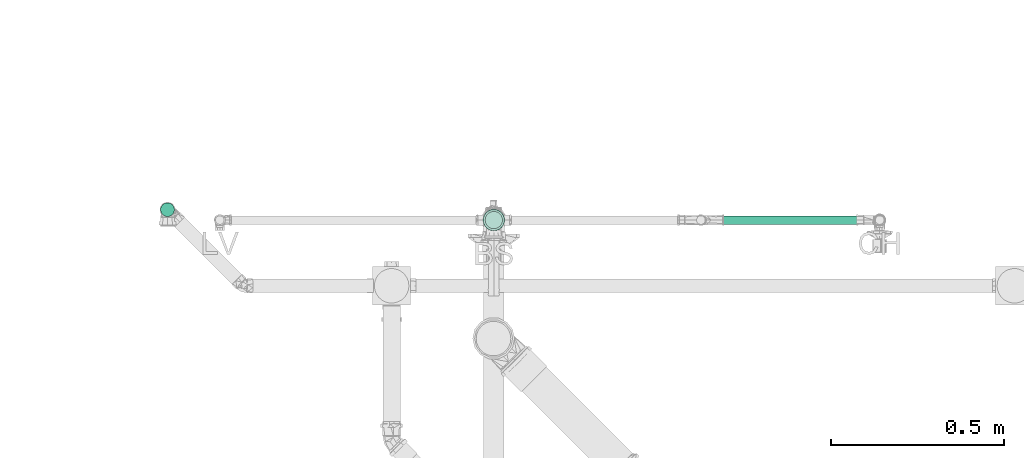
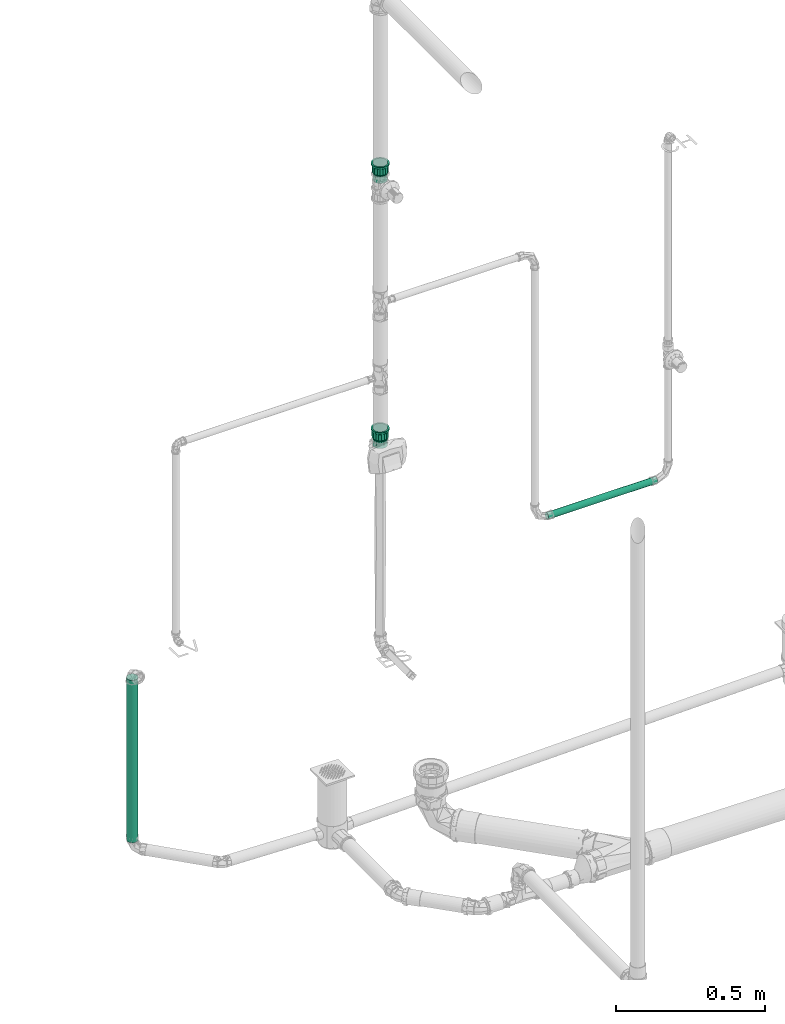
# One storey, part 289 of 589: 2 flow fittings, 2 flow segments.
"""IFC2X3 building model written with IfcOpenShell, lengths in millimetres."""

from ifc_helpers import new_model, entity, si_unit, converted_unit, derived_unit, direction, frame, frame_2d, origin, origin_2d_with_axis, place, context, subcontext, project, spatial, circle, extrude, faceted_brep, source, transform, mapped, material, type_object, type_shapes, element, save


model = new_model("IFC2X3")

# Units and contexts
model_context = context("Model", 3, precision=0.01, world=origin(), true_north=direction((6.123031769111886e-17, 1.0)))
body_context = subcontext(model_context, "Body", "Model", "MODEL_VIEW")
ifc_project = project(units=[si_unit("LENGTHUNIT", "METRE", prefix="MILLI"), si_unit("AREAUNIT", "SQUARE_METRE"), si_unit("VOLUMEUNIT", "CUBIC_METRE"), converted_unit("PLANEANGLEUNIT", "DEGREE", entity("IfcRatioMeasure", 0.017453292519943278), si_unit("PLANEANGLEUNIT", "RADIAN"), dimensions=[0, 0, 0, 0, 0, 0, 0]), si_unit("MASSUNIT", "GRAM", prefix="KILO"), derived_unit("MASSDENSITYUNIT", [(si_unit("MASSUNIT", "GRAM", prefix="KILO"), 1), (si_unit("LENGTHUNIT", "METRE"), -3)]), derived_unit("IONCONCENTRATIONUNIT", [(si_unit("MASSUNIT", "GRAM", prefix="KILO"), 1), (si_unit("LENGTHUNIT", "METRE"), -3)]), derived_unit("MOMENTOFINERTIAUNIT", [(si_unit("LENGTHUNIT", "METRE"), 4)]), si_unit("TIMEUNIT", "SECOND"), si_unit("FREQUENCYUNIT", "HERTZ"), si_unit("THERMODYNAMICTEMPERATUREUNIT", "DEGREE_CELSIUS"), derived_unit("THERMALTRANSMITTANCEUNIT", [(si_unit("MASSUNIT", "GRAM", prefix="KILO"), 1), (si_unit("THERMODYNAMICTEMPERATUREUNIT", "KELVIN"), -1), (si_unit("TIMEUNIT", "SECOND"), -3)]), derived_unit("THERMALCONDUCTANCEUNIT", [(si_unit("MASSUNIT", "GRAM", prefix="KILO"), 1), (si_unit("THERMODYNAMICTEMPERATUREUNIT", "KELVIN"), -1), (si_unit("TIMEUNIT", "SECOND"), -3), (si_unit("LENGTHUNIT", "METRE"), 1)]), derived_unit("VOLUMETRICFLOWRATEUNIT", [(si_unit("LENGTHUNIT", "METRE"), 3), (si_unit("TIMEUNIT", "SECOND"), -1)]), derived_unit("MASSFLOWRATEUNIT", [(si_unit("MASSUNIT", "GRAM", prefix="KILO"), 1), (si_unit("TIMEUNIT", "SECOND"), -1)]), derived_unit("ROTATIONALFREQUENCYUNIT", [(si_unit("TIMEUNIT", "SECOND"), -1)]), si_unit("ELECTRICCURRENTUNIT", "AMPERE"), si_unit("ELECTRICVOLTAGEUNIT", "VOLT"), si_unit("POWERUNIT", "WATT"), si_unit("FORCEUNIT", "NEWTON", prefix="KILO"), si_unit("ILLUMINANCEUNIT", "LUX"), si_unit("LUMINOUSFLUXUNIT", "LUMEN"), si_unit("LUMINOUSINTENSITYUNIT", "CANDELA"), derived_unit("USERDEFINED", [(si_unit("MASSUNIT", "GRAM", prefix="KILO"), -1), (si_unit("LENGTHUNIT", "METRE"), -2), (si_unit("TIMEUNIT", "SECOND"), 3), (si_unit("LUMINOUSFLUXUNIT", "LUMEN"), 1)]), derived_unit("USERDEFINED", [(si_unit("MASSUNIT", "GRAM", prefix="KILO"), 1), (si_unit("TIMEUNIT", "SECOND"), -3), (si_unit("LENGTHUNIT", "METRE"), 3), (si_unit("ELECTRICCURRENTUNIT", "AMPERE"), -2)]), derived_unit("SOUNDPOWERUNIT", [(si_unit("MASSUNIT", "GRAM", prefix="KILO"), 1), (si_unit("TIMEUNIT", "SECOND"), -3), (si_unit("LENGTHUNIT", "METRE"), 2)]), derived_unit("SOUNDPRESSUREUNIT", [(si_unit("MASSUNIT", "GRAM", prefix="KILO"), 1), (si_unit("LENGTHUNIT", "METRE"), -1), (si_unit("TIMEUNIT", "SECOND"), -2)]), derived_unit("LINEARVELOCITYUNIT", [(si_unit("LENGTHUNIT", "METRE"), 1), (si_unit("TIMEUNIT", "SECOND"), -1)]), si_unit("PRESSUREUNIT", "PASCAL"), derived_unit("USERDEFINED", [(si_unit("MASSUNIT", "GRAM", prefix="KILO"), 1), (si_unit("LENGTHUNIT", "METRE"), -2), (si_unit("TIMEUNIT", "SECOND"), -2)]), derived_unit("LINEARFORCEUNIT", [(si_unit("MASSUNIT", "GRAM", prefix="KILO"), 1), (si_unit("TIMEUNIT", "SECOND"), -2)]), derived_unit("PLANARFORCEUNIT", [(si_unit("MASSUNIT", "GRAM", prefix="KILO"), 1), (si_unit("LENGTHUNIT", "METRE"), -1), (si_unit("TIMEUNIT", "SECOND"), -2)]), derived_unit("SPECIFICHEATCAPACITYUNIT", [(si_unit("THERMODYNAMICTEMPERATUREUNIT", "KELVIN"), -1), (si_unit("LENGTHUNIT", "METRE"), 2), (si_unit("TIMEUNIT", "SECOND"), -2)]), derived_unit("HEATINGVALUEUNIT", [(si_unit("LENGTHUNIT", "METRE"), 2), (si_unit("TIMEUNIT", "SECOND"), -2)]), derived_unit("VAPORPERMEABILITYUNIT", [(si_unit("LENGTHUNIT", "METRE"), -1), (si_unit("TIMEUNIT", "SECOND"), 1)]), derived_unit("DYNAMICVISCOSITYUNIT", [(si_unit("MASSUNIT", "GRAM", prefix="KILO"), 1), (si_unit("TIMEUNIT", "SECOND"), -1), (si_unit("LENGTHUNIT", "METRE"), -1)]), derived_unit("THERMALEXPANSIONCOEFFICIENTUNIT", [(si_unit("THERMODYNAMICTEMPERATUREUNIT", "KELVIN"), -1)]), derived_unit("MODULUSOFELASTICITYUNIT", [(si_unit("MASSUNIT", "GRAM", prefix="KILO"), 1), (si_unit("LENGTHUNIT", "METRE"), -1), (si_unit("TIMEUNIT", "SECOND"), -2)]), derived_unit("ISOTHERMALMOISTURECAPACITYUNIT", [(si_unit("LENGTHUNIT", "METRE"), 3), (si_unit("MASSUNIT", "GRAM", prefix="KILO"), -1)]), derived_unit("MOISTUREDIFFUSIVITYUNIT", [(si_unit("TIMEUNIT", "SECOND"), -1), (si_unit("LENGTHUNIT", "METRE"), 2)])], contexts=[model_context])

# Site, building, storey
site_placement = place(None, origin())
site = spatial("IfcSite", under=ifc_project, at=site_placement, Name="Default", CompositionType="ELEMENT")
building_placement = place(site_placement, origin())
building = spatial("IfcBuilding", under=site, at=building_placement, CompositionType="ELEMENT")
storey_placement = place(building_placement, frame((0.0, 0.0, 100.0)))
storey = spatial("IfcBuildingStorey", under=building, at=storey_placement, Name="TÉRREO", CompositionType="ELEMENT", Elevation=100.0)

# Flow segments
pipe_segment_type_1 = type_object("IfcPipeSegmentType", Name="Tipos de tubos:PVC Esgoto Série Normal", PredefinedType="NOTDEFINED")
flow_segment_1_placement = place(storey_placement, origin())
element("IfcFlowSegment", 1, at=flow_segment_1_placement, inside=storey, type_object=pipe_segment_type_1, Name="Tipos de tubos:PVC Esgoto Série Normal", ObjectType="Tipos de tubos:PVC Esgoto Série Normal", context=body_context, shape_type="SweptSolid", body=[
    extrude(circle(Radius=20.0, at=origin_2d_with_axis()), frame((5110.992236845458, 7565.999967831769, -187.41572645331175)), (0.0, 0.0, 1.0), 665.6157264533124),
])
pipe_segment_type_2 = type_object("IfcPipeSegmentType", Name="Tipos de tubos:PVC Marrom Soldável", PredefinedType="NOTDEFINED")
flow_segment_2_placement = place(storey_placement, origin())
element("IfcFlowSegment", 2, at=flow_segment_2_placement, inside=storey, type_object=pipe_segment_type_2, Name="Tipos de tubos:PVC Marrom Soldável", ObjectType="Tipos de tubos:PVC Marrom Soldável", context=body_context, shape_type="SweptSolid", body=[
    extrude(circle(Radius=12.5, at=frame_2d((2.7071678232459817e-11, 0.0), x_axis=(1.0, 0.0))), frame((6700.634721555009, 7535.9247526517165, 600.0), z_axis=(1.0, 0.0, 0.0), x_axis=(0.0, 1.0, 0.0)), (0.0, 0.0, 1.0), 423.11198955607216),
])

# Flow fittings
ifc_material = material(Name="PVC Marrom")
pipe_fitting_type = type_object("IfcPipeFittingType", Name="PVC Marrom Soldável_Adaptador Curto com Bolsa e Rosca Aninhado_Rodrigo MEP:Adaptador", PredefinedType="NOTDEFINED", material=ifc_material)
shared_shape = source(origin(), body_context, "Body", "Brep", [
    faceted_brep([(0.0, 12.499999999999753, -21.65063509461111), (0.0, 21.884954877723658, -21.88495487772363), (0.0, 15.475000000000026, -26.803486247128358), (0.0, 17.677669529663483, -17.6776695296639), (0.0, 6.470476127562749, -24.14814565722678), (0.0, 26.803486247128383, -15.474999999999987), (0.0, 21.650635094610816, -12.500000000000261), (0.0, 24.148145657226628, -6.470476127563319), (0.0, 29.895404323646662, -8.01044944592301), (0.0, 25.0, 0.0), (0.0, 30.95, 0.0), (0.0, 24.14814565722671, 6.470476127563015), (0.0, 29.895404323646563, 8.010449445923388), (0.0, 21.65063509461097, 12.499999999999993), (0.0, 26.80348624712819, 15.475000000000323), (0.0, 17.6776695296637, 17.677669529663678), (0.0, 21.884954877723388, 21.884954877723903), (0.0, 12.500000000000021, 21.65063509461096), (0.0, 15.474999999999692, 26.803486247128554), (0.0, 6.4704761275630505, 24.1481456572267), (0.0, 8.010449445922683, 29.89540432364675), (0.0, 0.0, 25.0), (0.0, 0.0, 30.95), (0.0, -6.4704761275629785, 24.14814565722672), (0.0, -8.010449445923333, 29.895404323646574), (0.0, -12.49999999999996, 21.650635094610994), (0.0, -15.475000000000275, 26.803486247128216), (0.0, -17.677669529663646, 17.67766952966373), (0.0, -21.884954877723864, 21.884954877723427), (0.0, -21.65063509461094, 12.500000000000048), (0.0, -26.803486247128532, 15.474999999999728), (0.0, -29.89540432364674, 8.010449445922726), (0.0, -24.14814565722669, 6.4704761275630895), (0.0, -30.95, 0.0), (0.0, -25.0, 0.0), (0.0, -29.895404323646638, -8.010449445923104), (0.0, -24.148145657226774, -6.470476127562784), (0.0, -26.803486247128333, -15.475000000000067), (0.0, -21.6506350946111, -12.499999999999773), (0.0, -21.884954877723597, -21.884954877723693), (0.0, -17.677669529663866, -17.67766952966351), (0.0, -15.474999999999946, -26.803486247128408), (0.0, -12.500000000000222, -21.650635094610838), (0.0, -8.010449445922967, -29.895404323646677), (0.0, -6.470476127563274, -24.148145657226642), (0.0, 0.0, -30.95), (0.0, 0.0, -25.0), (0.0, 8.010449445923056, -29.895404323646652), (7.0, -30.016595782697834, 5.29316701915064), (7.0, -29.88065133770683, 6.064083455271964), (7.0, -29.083191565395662, 10.586334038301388), (7.0, -23.70796650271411, 19.895598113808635), (7.0, -19.590362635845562, 23.350189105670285), (7.0, -26.395579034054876, 15.24096607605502), (7.0, -5.3710129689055, 30.480398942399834), (7.0, -10.421885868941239, 28.6425895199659), (7.0, -30.95, 0.0), (7.0, -15.472758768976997, 26.804780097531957), (7.0, 10.42907040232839, 28.639974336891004), (7.0, 15.479482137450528, 26.80089798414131), (7.0, 5.37865866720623, 30.479050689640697), (7.0, 19.596219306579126, 23.345274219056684), (7.0, 23.712956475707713, 19.889650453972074), (7.0, 29.08584618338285, 10.57903832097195), (7.0, 30.95, 0.0), (7.0, 26.39940132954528, 15.234344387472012), (7.0, 0.0038228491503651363, 30.47972481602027), (7.0, 29.08584618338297, -10.579038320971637), (7.0, 23.71295647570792, -19.88965045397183), (7.0, 19.596219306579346, -23.3452742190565), (7.0, 26.39940132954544, -15.234344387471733), (7.0, 5.378658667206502, -30.47905068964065), (7.0, 10.429070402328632, -28.639974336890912), (7.0, 15.47948213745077, -26.800897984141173), (7.0, -30.0165957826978, -5.2931670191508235), (7.0, -10.421885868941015, -28.642589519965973), (7.0, -15.472758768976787, -26.804780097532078), (7.0, -5.3710129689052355, -30.480398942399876), (7.0, -19.590362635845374, -23.350189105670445), (7.0, -23.707966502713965, -19.895598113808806), (7.0, -29.083191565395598, -10.58633403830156), (7.0, -29.88065131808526, -6.064083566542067), (7.0, -26.395579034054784, -15.240966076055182), (7.0, 0.003822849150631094, -30.479724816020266), (9.400000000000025, -26.87493630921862, 9.782525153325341), (9.400000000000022, -27.737468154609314, 4.891262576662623), (34.4499999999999, -26.875116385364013, 9.782030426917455), (9.40000000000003, -18.102887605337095, 21.577234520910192), (34.4499999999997, -14.299296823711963, 24.768732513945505), (9.400000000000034, -14.297928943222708, 24.769522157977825), (9.400000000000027, -24.391391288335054, 14.083736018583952), (34.44999999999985, -24.391819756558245, 14.083085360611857), (34.4499999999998, -21.908523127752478, 18.384140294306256), (34.44999999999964, -4.965271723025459, 28.165689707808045), (9.400000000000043, -4.963197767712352, 28.16605524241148), (9.400000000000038, -9.63056335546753, 26.467788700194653), (9.400000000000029, -21.907846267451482, 18.384946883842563), (9.40000000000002, -28.600000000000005, 0.0), (34.44999999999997, -27.796398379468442, 4.557325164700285), (34.44999999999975, -18.103909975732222, 21.57643640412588), (34.44999999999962, 4.967670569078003, 28.165266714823), (9.400000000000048, 0.003532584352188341, 28.165432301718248), (34.44999999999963, 0.0011994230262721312, 28.165478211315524), (34.44999999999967, -9.632284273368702, 26.46721111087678), (9.400000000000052, 4.970262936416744, 28.164809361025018), (9.400000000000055, 9.63720237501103, 26.465372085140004), (34.449999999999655, 14.301406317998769, 24.76751455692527), (9.40000000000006, 14.304141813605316, 24.765934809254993), (34.449999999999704, 18.105747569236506, 21.574894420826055), (34.44999999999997, -27.73755819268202, 4.891015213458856), (34.449999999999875, 26.875949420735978, 9.779741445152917), (34.450000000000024, 28.600000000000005, 0.0), (9.400000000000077, 26.87738936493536, 9.77578339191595), (34.449999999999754, 21.910088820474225, 18.38227428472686), (9.40000000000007, 21.91245735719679, 18.379450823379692), (9.400000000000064, 18.108299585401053, 21.57269281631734), (34.44999999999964, 9.634538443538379, 26.46639063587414), (9.400000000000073, 24.394923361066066, 14.077617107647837), (34.450000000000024, -28.600000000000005, 0.0), (9.40000000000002, 28.600000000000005, 0.0), (34.44999999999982, 24.3930191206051, 14.081007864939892), (9.40000000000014, 26.87738936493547, -9.77578339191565), (34.45000000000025, 26.87594942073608, -9.77974144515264), (9.400000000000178, -18.10288760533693, -21.577234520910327), (34.45000000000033, -14.299296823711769, -24.76873251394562), (34.45000000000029, -18.10390997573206, -21.57643640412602), (9.400000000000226, 18.108299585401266, -21.57269281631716), (9.400000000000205, 21.912457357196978, -18.37945082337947), (34.450000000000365, 21.910088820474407, -18.38227428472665), (9.400000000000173, 24.394923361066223, -14.077617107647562), (34.45000000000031, 24.393019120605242, -14.081007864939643), (9.40000000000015, -21.907846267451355, -18.384946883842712), (34.45000000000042, 0.0011994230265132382, -28.165478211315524), (9.400000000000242, -4.963197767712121, -28.166055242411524), (9.40000000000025, 0.0035325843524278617, -28.165432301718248), (9.40000000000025, 9.637202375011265, -26.46537208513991), (9.400000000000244, 14.304141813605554, -24.765934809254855), (34.45000000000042, 14.301406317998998, -24.76751455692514), (9.400000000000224, -9.63056335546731, -26.467788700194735), (34.45000000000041, -4.965271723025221, -28.165689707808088), (34.45000000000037, -9.632284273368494, -26.467211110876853), (34.45000000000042, 9.634538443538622, -26.46639063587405), (9.400000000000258, 4.970262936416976, -28.164809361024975), (9.400000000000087, -26.874936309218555, -9.782525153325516), (9.40000000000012, -24.391391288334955, -14.083736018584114), (34.45000000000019, -24.391819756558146, -14.083085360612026), (34.450000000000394, 18.1057475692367, -21.574894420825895), (34.450000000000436, 4.967670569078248, -28.16526671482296), (34.45000000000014, -26.875116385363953, -9.782030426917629), (34.45000000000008, -27.796398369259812, -4.557325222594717), (9.400000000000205, -14.297928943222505, -24.769522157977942), (9.400000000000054, -27.737468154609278, -4.891262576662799), (34.450000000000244, -21.908523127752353, -18.38414029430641), (34.45000000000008, -27.737558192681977, -4.891015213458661), (69.0, 6.4704761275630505, -24.1481456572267), (69.0, 12.500000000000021, -21.65063509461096), (69.0, 17.6776695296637, -17.677669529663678), (69.0, 21.650635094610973, -12.499999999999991), (69.0, 24.14814565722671, -6.470476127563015), (69.0, 25.0, 0.0), (69.0, 24.148145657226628, 6.470476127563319), (69.0, 21.650635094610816, 12.500000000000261), (69.0, 17.677669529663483, 17.6776695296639), (69.0, 12.499999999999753, 21.65063509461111), (69.0, 6.470476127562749, 24.14814565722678), (69.0, 0.0, 25.0), (69.0, -6.470476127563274, 24.148145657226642), (69.0, -12.500000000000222, 21.650635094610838), (69.0, -17.67766952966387, 17.677669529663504), (69.0, -21.650635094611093, 12.499999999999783), (69.0, -24.148145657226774, 6.470476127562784), (69.0, -25.0, 0.0), (69.0, -24.14814565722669, -6.4704761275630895), (69.0, -21.650635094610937, -12.500000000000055), (69.0, -17.677669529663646, -17.67766952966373), (69.0, -12.49999999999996, -21.650635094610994), (69.0, -6.4704761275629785, -24.14814565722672), (69.0, 0.0, -25.0), (40.499999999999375, -8.41832461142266, 23.136178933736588), (40.49999999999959, -19.1502152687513, 16.070757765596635), (40.49999999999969, -21.321146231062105, 12.310958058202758), (40.49999999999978, -23.492077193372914, 8.551158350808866), (40.49999999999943, -12.498189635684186, 21.651680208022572), (40.49999999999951, -15.824202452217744, 18.861218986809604), (40.49999999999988, -24.246038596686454, 4.2755791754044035), (40.49999999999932, -4.3384595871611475, 24.620677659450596), (40.499999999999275, 4.344635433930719, 24.61958860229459), (40.499999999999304, 0.003087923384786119, 24.620133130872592), (40.49999999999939, 15.828933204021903, 18.85724896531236), (40.49999999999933, 12.503620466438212, 21.648544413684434), (40.49999999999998, -25.0, 0.0), (40.49999999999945, 19.154245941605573, 16.065953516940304), (40.49999999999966, 23.494221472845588, 8.545265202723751), (40.499999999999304, 8.424127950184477, 23.13406650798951), (40.49999999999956, 21.324233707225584, 12.305609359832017), (40.49999999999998, 25.0, 0.0), (40.500000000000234, 19.15424594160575, -16.065953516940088), (40.500000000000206, -15.824202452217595, -18.861218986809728), (40.50000000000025, -12.498189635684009, -21.65168020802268), (40.500000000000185, 21.32423370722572, -12.305609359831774), (40.50000000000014, 23.494221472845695, -8.545265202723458), (40.5000000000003, 12.503620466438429, -21.64854441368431), (40.50000000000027, 15.82893320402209, -18.8572489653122), (40.50000000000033, 4.344635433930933, -24.619588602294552), (40.50000000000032, 8.42412795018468, -23.13406650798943), (40.5000000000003, -4.3384595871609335, -24.62067765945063), (40.50000000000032, 0.00308792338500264, -24.620133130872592), (40.50000000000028, -8.41832461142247, -23.136178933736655), (40.50000000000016, -19.150215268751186, -16.070757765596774), (40.50000000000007, -23.49207719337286, -8.551158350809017), (40.500000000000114, -21.321146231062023, -12.31095805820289), (40.50000000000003, -24.246038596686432, -4.275579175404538), (9.40000000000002, -25.0, 0.0), (34.450000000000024, -25.0, 0.0), (34.450000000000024, -24.14814565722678, -6.470476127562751), (9.40000000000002, -24.14814565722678, -6.470476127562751), (7.0, -24.14814565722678, -6.470476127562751), (7.0, -25.0, 0.0), (34.450000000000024, -21.650635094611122, -12.499999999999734), (9.40000000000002, -21.650635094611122, -12.499999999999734), (7.0, -21.650635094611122, -12.499999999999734), (9.40000000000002, -12.500000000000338, -21.65063509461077), (7.0, -12.500000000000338, -21.65063509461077), (7.0, -17.677669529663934, -17.677669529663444), (9.40000000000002, -17.677669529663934, -17.677669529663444), (34.450000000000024, -17.677669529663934, -17.677669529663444), (34.450000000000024, -12.500000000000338, -21.65063509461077), (9.40000000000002, -6.470476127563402, -24.148145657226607), (7.0, -6.470476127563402, -24.148145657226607), (34.450000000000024, -6.470476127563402, -24.148145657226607), (34.450000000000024, 0.0, -25.0), (9.40000000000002, 0.0, -25.0), (7.0, 0.0, -25.0), (34.450000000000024, 6.470476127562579, -24.148145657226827), (9.40000000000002, 6.470476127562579, -24.148145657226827), (7.0, 6.470476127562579, -24.148145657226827), (34.450000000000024, 12.49999999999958, -21.65063509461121), (9.40000000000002, 12.49999999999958, -21.65063509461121), (7.0, 12.49999999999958, -21.65063509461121), (34.450000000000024, 24.148145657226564, -6.470476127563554), (34.450000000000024, 25.0, 0.0), (9.40000000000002, 25.0, 0.0), (7.0, 25.0, 0.0), (7.0, 24.14814565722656, -6.470476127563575), (9.40000000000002, 24.148145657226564, -6.470476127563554), (34.450000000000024, 17.677669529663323, -17.677669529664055), (9.40000000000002, 17.677669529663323, -17.677669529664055), (7.0, 17.677669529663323, -17.677669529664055), (34.450000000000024, 21.650635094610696, -12.500000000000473), (9.40000000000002, 21.650635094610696, -12.500000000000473), (7.0, 21.650635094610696, -12.500000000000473), (34.450000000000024, 24.148145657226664, 6.470476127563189), (9.40000000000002, 24.148145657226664, 6.470476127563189), (7.0, 24.148145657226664, 6.470476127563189), (34.450000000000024, 21.65063509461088, 12.50000000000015), (9.40000000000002, 21.65063509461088, 12.50000000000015), (7.0, 21.65063509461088, 12.50000000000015), (9.40000000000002, 12.49999999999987, 21.650635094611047), (7.0, 12.49999999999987, 21.650635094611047), (7.0, 17.677669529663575, 17.677669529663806), (9.40000000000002, 17.677669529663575, 17.677669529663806), (34.450000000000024, 17.677669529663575, 17.677669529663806), (34.450000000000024, 12.49999999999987, 21.650635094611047), (9.40000000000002, 6.470476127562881, 24.14814565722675), (7.0, 6.470476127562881, 24.14814565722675), (34.450000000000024, 6.470476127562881, 24.14814565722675), (34.450000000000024, 0.0, 25.0), (9.40000000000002, 0.0, 25.0), (7.0, 0.0, 25.0), (9.40000000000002, -17.677669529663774, 17.677669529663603), (7.0, -17.677669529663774, 17.677669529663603), (7.0, -12.50000000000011, 21.650635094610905), (9.40000000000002, -12.50000000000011, 21.650635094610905), (34.450000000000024, -12.50000000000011, 21.650635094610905), (34.450000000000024, -17.677669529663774, 17.677669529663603), (9.40000000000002, -24.14814565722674, 6.470476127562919), (7.0, -24.14814565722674, 6.470476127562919), (7.0, -21.650635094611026, 12.499999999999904), (9.40000000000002, -21.650635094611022, 12.499999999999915), (34.450000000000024, -21.650635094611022, 12.499999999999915), (34.450000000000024, -24.14814565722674, 6.470476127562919), (7.0, -6.470476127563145, 24.148145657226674), (9.40000000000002, -6.470476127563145, 24.148145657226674), (34.450000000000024, -6.470476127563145, 24.148145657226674)], [[[0, 1, 2]], [[3, 1, 0]], [[4, 0, 2]], [[1, 3, 5]], [[5, 3, 6]], [[5, 6, 7]], [[8, 5, 7]], [[9, 8, 7]], [[10, 8, 9]], [[10, 9, 11]], [[12, 10, 11]], [[12, 11, 13]], [[14, 12, 13]], [[14, 13, 15]], [[15, 16, 14]], [[15, 17, 16]], [[18, 16, 17]], [[19, 18, 17]], [[18, 19, 20]], [[21, 20, 19]], [[22, 20, 21]], [[21, 23, 22]], [[24, 22, 23]], [[25, 24, 23]], [[24, 25, 26]], [[25, 27, 26]], [[27, 28, 26]], [[28, 27, 29]], [[28, 29, 30]], [[30, 29, 31]], [[31, 29, 32]], [[33, 31, 32]], [[32, 34, 33]], [[33, 34, 35]], [[34, 36, 35]], [[37, 35, 36]], [[37, 36, 38]], [[39, 37, 38]], [[40, 39, 38]], [[40, 41, 39]], [[42, 41, 40]], [[43, 41, 42]], [[42, 44, 43]], [[43, 44, 45]], [[44, 46, 45]], [[46, 4, 47]], [[45, 46, 47]], [[2, 47, 4]], [[31, 48, 49, 50]], [[28, 51, 52]], [[51, 30, 50, 53]], [[54, 24, 55]], [[30, 31, 50]], [[56, 48, 33]], [[52, 57, 26]], [[52, 26, 28]], [[30, 51, 28]], [[58, 59, 18]], [[58, 18, 20]], [[26, 57, 55]], [[26, 55, 24]], [[22, 24, 54]], [[33, 48, 31]], [[20, 60, 58]], [[16, 61, 62]], [[12, 63, 64]], [[63, 14, 62, 65]], [[12, 64, 10]], [[18, 61, 16]], [[22, 54, 66, 60]], [[22, 60, 20]], [[14, 16, 62]], [[59, 61, 18]], [[14, 63, 12]], [[8, 64, 67]], [[1, 68, 69]], [[68, 5, 67, 70]], [[71, 47, 72]], [[5, 8, 67]], [[8, 10, 64]], [[2, 72, 47]], [[69, 73, 2]], [[5, 68, 1]], [[74, 33, 35]], [[75, 76, 41]], [[2, 73, 72]], [[75, 41, 43]], [[45, 47, 71]], [[69, 2, 1]], [[43, 77, 75]], [[39, 78, 79]], [[35, 80, 81, 74]], [[80, 37, 79, 82]], [[37, 80, 35]], [[41, 78, 39]], [[45, 71, 83, 77]], [[45, 77, 43]], [[37, 39, 79]], [[76, 78, 41]], [[74, 56, 33]], [[84, 85, 86]], [[87, 88, 89]], [[90, 91, 92]], [[93, 94, 95]], [[92, 96, 90]], [[85, 97, 98]], [[99, 87, 96]], [[91, 84, 86]], [[100, 101, 102]], [[93, 95, 103]], [[89, 103, 95]], [[84, 91, 90]], [[100, 104, 101]], [[88, 87, 99]], [[105, 106, 107]], [[108, 107, 106]], [[85, 98, 109, 86]], [[102, 94, 93]], [[110, 111, 112]], [[113, 114, 115]], [[116, 104, 100]], [[112, 117, 110]], [[113, 115, 108]], [[104, 116, 105]], [[97, 118, 98]], [[115, 107, 108]], [[119, 112, 111]], [[99, 96, 92]], [[117, 114, 120]], [[110, 117, 120]], [[103, 89, 88]], [[102, 101, 94]], [[120, 114, 113]], [[106, 105, 116]], [[121, 111, 122]], [[123, 124, 125]], [[126, 127, 128]], [[129, 122, 130]], [[125, 131, 123]], [[129, 121, 122]], [[132, 133, 134]], [[135, 136, 137]], [[138, 139, 140]], [[119, 111, 121]], [[130, 127, 129]], [[141, 142, 135]], [[143, 144, 145]], [[126, 128, 146]], [[134, 147, 132]], [[135, 137, 141]], [[132, 139, 133]], [[138, 133, 139]], [[137, 136, 146]], [[143, 145, 148]], [[147, 142, 141]], [[149, 118, 97]], [[123, 150, 124]], [[124, 150, 140]], [[148, 151, 143]], [[146, 136, 126]], [[152, 144, 131]], [[151, 148, 153, 149]], [[144, 152, 145]], [[152, 131, 125]], [[142, 147, 134]], [[149, 97, 151]], [[128, 127, 130]], [[140, 150, 138]], [[154, 155, 156, 157, 158, 159, 160, 161, 162, 163, 164, 165, 166, 167, 168, 169, 170, 171, 172, 173, 174, 175, 176, 177]], [[178, 167, 166]], [[169, 168, 179]], [[169, 179, 180, 181]], [[182, 183, 167]], [[170, 181, 184]], [[166, 185, 178]], [[179, 168, 183]], [[165, 186, 187, 185]], [[165, 185, 166]], [[167, 183, 168]], [[188, 189, 163]], [[184, 171, 170]], [[184, 190, 171]], [[161, 191, 162]], [[169, 181, 170]], [[161, 160, 192]], [[163, 193, 164]], [[161, 192, 194, 191]], [[195, 160, 159]], [[164, 193, 186]], [[186, 165, 164]], [[189, 193, 163]], [[188, 163, 162]], [[162, 191, 188]], [[160, 195, 192]], [[178, 182, 167]], [[195, 159, 158]], [[157, 156, 196]], [[197, 198, 175]], [[157, 196, 199, 200]], [[201, 202, 155]], [[200, 195, 158]], [[154, 203, 204]], [[196, 156, 202]], [[177, 205, 206, 203]], [[197, 175, 174]], [[155, 202, 156]], [[204, 201, 155]], [[175, 198, 207]], [[157, 200, 158]], [[204, 155, 154]], [[173, 208, 174]], [[173, 172, 209]], [[173, 209, 210, 208]], [[171, 190, 211]], [[205, 177, 176]], [[207, 205, 176]], [[175, 207, 176]], [[174, 208, 197]], [[211, 209, 172]], [[171, 211, 172]], [[177, 203, 154]], [[212, 213, 214, 215, 216, 36, 34, 217]], [[215, 214, 218, 219, 220, 38, 36, 216]], [[221, 222, 42, 40, 223, 224, 225, 226]], [[225, 224, 223, 40, 38, 220, 219, 218]], [[227, 228, 44, 42, 222, 221, 226, 229]], [[227, 229, 230, 231, 232, 46, 44, 228]], [[231, 230, 233, 234, 235, 4, 46, 232]], [[234, 233, 236, 237, 238, 0, 4, 235]], [[239, 240, 241, 242, 9, 7, 243, 244]], [[237, 236, 245, 246, 247, 3, 0, 238]], [[245, 248, 249, 250, 6, 3, 247, 246]], [[248, 239, 244, 243, 7, 6, 250, 249]], [[241, 240, 251, 252, 253, 11, 9, 242]], [[252, 251, 254, 255, 256, 13, 11, 253]], [[257, 258, 17, 15, 259, 260, 261, 262]], [[261, 260, 259, 15, 13, 256, 255, 254]], [[263, 264, 19, 17, 258, 257, 262, 265]], [[263, 265, 266, 267, 268, 21, 19, 264]], [[269, 270, 27, 25, 271, 272, 273, 274]], [[275, 276, 32, 29, 277, 278, 279, 280]], [[274, 279, 278, 277, 29, 27, 270, 269]], [[212, 217, 34, 32, 276, 275, 280, 213]], [[273, 272, 271, 25, 23, 281, 282, 283]], [[267, 266, 283, 282, 281, 23, 21, 268]], [[64, 119, 121, 67]], [[81, 80, 143, 151, 97, 56, 74]], [[73, 136, 135, 142, 71, 72]], [[71, 142, 134, 133, 77, 83]], [[73, 69, 68, 127, 126, 136]], [[127, 68, 70, 67, 121, 129]], [[77, 133, 138, 150, 76, 75]], [[143, 80, 82, 79, 131, 144]], [[78, 76, 150, 123, 131, 79]], [[84, 50, 49, 48, 56, 97, 85]], [[53, 50, 84, 90, 96, 51]], [[52, 51, 96, 87, 89, 57]], [[89, 95, 94, 54, 55, 57]], [[101, 104, 60, 66, 54, 94]], [[105, 107, 59, 58, 60, 104]], [[112, 119, 64, 63]], [[114, 117, 112, 63, 65, 62]], [[107, 115, 114, 62, 61, 59]], [[233, 230, 229, 226, 225, 218, 214, 213, 280, 279, 274, 273, 283, 266, 265, 262, 261, 254, 251, 240, 239, 248, 245, 236]], [[190, 109, 98, 118]], [[184, 86, 109]], [[181, 86, 184]], [[185, 93, 178]], [[103, 88, 182]], [[99, 92, 179]], [[182, 88, 183]], [[91, 86, 181]], [[103, 182, 178]], [[178, 93, 103]], [[102, 185, 187]], [[180, 92, 91]], [[187, 100, 102]], [[91, 181, 180]], [[183, 88, 99]], [[99, 179, 183]], [[187, 186, 100]], [[191, 113, 188]], [[116, 100, 186]], [[179, 92, 180]], [[93, 185, 102]], [[189, 106, 193]], [[192, 195, 111]], [[120, 113, 191]], [[192, 110, 194]], [[108, 106, 189]], [[120, 191, 194]], [[194, 110, 120]], [[109, 190, 184]], [[188, 113, 108]], [[192, 111, 110]], [[108, 189, 188]], [[193, 106, 116]], [[116, 186, 193]], [[195, 200, 111]], [[203, 141, 204]], [[201, 146, 202]], [[196, 130, 199]], [[203, 147, 141]], [[201, 137, 146]], [[205, 132, 206]], [[196, 128, 130]], [[202, 128, 196]], [[111, 200, 122]], [[199, 130, 122]], [[146, 128, 202]], [[207, 139, 205]], [[206, 147, 203]], [[204, 141, 137]], [[199, 122, 200]], [[205, 139, 132]], [[204, 137, 201]], [[198, 124, 140]], [[198, 140, 207]], [[190, 153, 211]], [[209, 145, 210]], [[190, 118, 149, 153]], [[209, 148, 145]], [[208, 125, 197]], [[208, 152, 125]], [[210, 152, 208]], [[139, 207, 140]], [[125, 124, 197]], [[210, 145, 152]], [[211, 153, 148]], [[197, 124, 198]], [[206, 132, 147]], [[211, 148, 209]]]),
])
type_shapes(pipe_fitting_type, [shared_shape])
for number, where, z_axis, x_axis, name in (
    (3, (6054.818506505, 7535.924752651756, 1188.080916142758), (1.0, 0.0, 0.0), (0.0, 0.0, -1.0), "PVC Marrom Soldável_Adaptador Curto com Bolsa e Rosca Aninhado_Rodrigo MEP:Adaptador"),
    (4, (6054.818506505, 7535.924752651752, 2275.0), (0.0, -1.0, 0.0), (0.0, 0.0, -1.0), "PVC Marrom Soldável_Adaptador Curto com Bolsa e Rosca Aninhado_Rodrigo MEP:Adaptador"),
):
    element("IfcFlowFitting", number, at=place(storey_placement, frame(where, z_axis=z_axis, x_axis=x_axis)), inside=storey, type_object=pipe_fitting_type, material=ifc_material, Name=name, ObjectType="PVC Marrom Soldável_Adaptador Curto com Bolsa e Rosca Aninhado_Rodrigo MEP:Adaptador", context=body_context, shape_type="MappedRepresentation", body=[
        mapped(shared_shape, transform((0.0, 0.0, 0.0), scale=1.0)),
    ])

save(model, "model.ifc")
